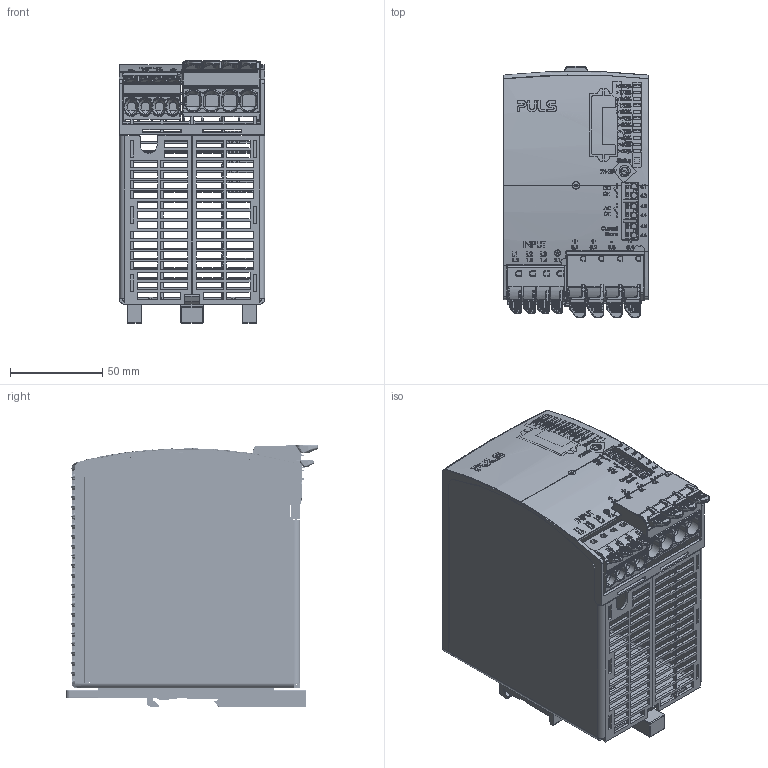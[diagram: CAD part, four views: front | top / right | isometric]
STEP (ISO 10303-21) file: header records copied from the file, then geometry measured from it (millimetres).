
FILE_DESCRIPTION (( 'STEP AP214' ), '1' );
FILE_NAME ('1023864_000.STEP', '2025-01-30T08:00:38', ( '' ), ( '' ), 'SwSTEP 2.0', 'SolidWorks 2024', '' );
FILE_SCHEMA (( 'AUTOMOTIVE_DESIGN' ));
Length unit declared in the file: millimetre
Products named in the file (11): 1025340_000_Feat_Config; 1023863_000_EW-484.881.11; 1025664_000; 1025342_000; 1023862_000_EW-484.992.00; 1025341_000; 1023868_000; 1023864_000; 1018315_000_BRep_Config; 1023867_000; 1018355_000_Feat_Config
Assembly tree (13 placements, depth 2):
  1023864_000
    1023862_000_EW-484.992.00
    1023863_000_EW-484.881.11
    1018355_000_Feat_Config
    1023867_000  x2
    1023868_000
    1025340_000_Feat_Config  x3
    1025341_000
    1025342_000
    1025664_000
    1018315_000_BRep_Config
Bounding box: 79 x 136.7 x 142.7 mm (x, y, z)
Volume: 144540 mm3; surface area: 170979.2 mm2
Topology: 17 solids, 17 shells, 8089 faces, 21393 edges, 13249 vertices
Faces by surface type: plane 3245, bspline 2858, cylinder 1869, cone 75, torus 34, sphere 8
Entity records: 345766 total; most frequent: CARTESIAN_POINT 177020, ORIENTED_EDGE 40994, DIRECTION 26480, EDGE_CURVE 20497, VERTEX_POINT 12745, LINE 9178, VECTOR 9178, AXIS2_PLACEMENT_3D 8651
